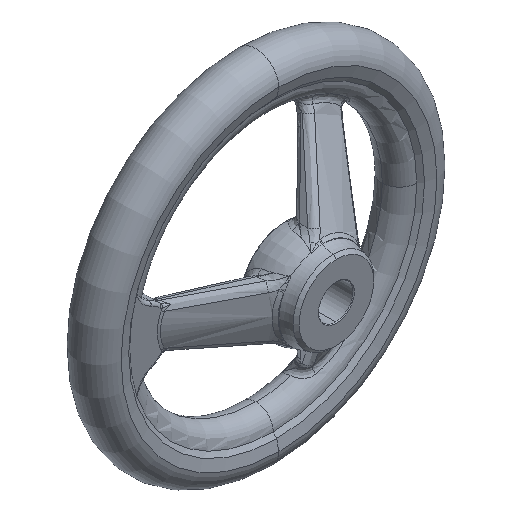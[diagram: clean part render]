
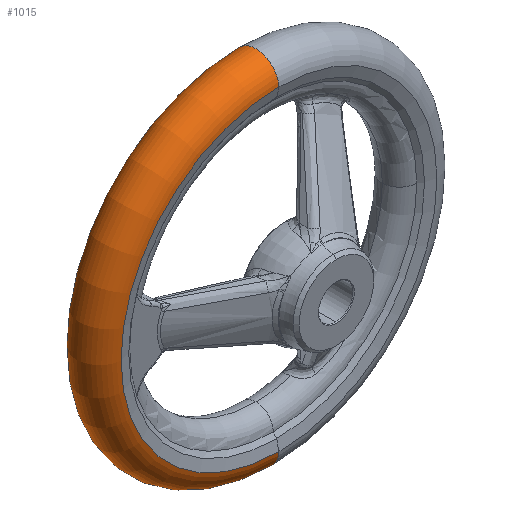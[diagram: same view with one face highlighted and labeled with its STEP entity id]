
A CAD part, isometric view. The second image highlights one B-rep face of the part: STEP entity #1015.
In plain terms, the highlighted toroidal (fillet/blend) face has major radius 54.483 mm and minor radius 8.017 mm.
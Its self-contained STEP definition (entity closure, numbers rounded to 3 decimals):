
#77 = DIRECTION ( 'NONE',  ( 0., -1., 0. ) ) ;
#383 = EDGE_CURVE ( 'NONE', #8399, #3106, #8800, .T. ) ;
#736 = CIRCLE ( 'NONE', #2130, 55. ) ;
#1015 = ADVANCED_FACE ( 'NONE', ( #4427 ), #7527, .T. ) ;
#1913 = CARTESIAN_POINT ( 'NONE',  ( 0., 28., 54.483 ) ) ;
#2122 = CIRCLE ( 'NONE', #3067, 55. ) ;
#2130 = AXIS2_PLACEMENT_3D ( 'NONE', #4916, #77, #5727 ) ;
#2595 = AXIS2_PLACEMENT_3D ( 'NONE', #1913, #7505, #2730 ) ;
#2730 = DIRECTION ( 'NONE',  ( 0., 0., -1. ) ) ;
#2789 = CARTESIAN_POINT ( 'NONE',  ( 0., 36., 0. ) ) ;
#2843 = EDGE_CURVE ( 'NONE', #8015, #3106, #736, .T. ) ;
#3067 = AXIS2_PLACEMENT_3D ( 'NONE', #2789, #8369, #3595 ) ;
#3106 = VERTEX_POINT ( 'NONE', #8330 ) ;
#3286 = AXIS2_PLACEMENT_3D ( 'NONE', #4521, #10095, #5329 ) ;
#3522 = CARTESIAN_POINT ( 'NONE',  ( 0., 28., 0. ) ) ;
#3595 = DIRECTION ( 'NONE',  ( 0., 0., -1. ) ) ;
#3693 = EDGE_CURVE ( 'NONE', #9418, #8015, #6784, .T. ) ;
#4061 = CARTESIAN_POINT ( 'NONE',  ( 0., 36., -55. ) ) ;
#4264 = CARTESIAN_POINT ( 'NONE',  ( 0., 20., 55. ) ) ;
#4427 = FACE_OUTER_BOUND ( 'NONE', #9886, .T. ) ;
#4521 = CARTESIAN_POINT ( 'NONE',  ( 0., 28., -54.483 ) ) ;
#4641 = EDGE_CURVE ( 'NONE', #9418, #8399, #2122, .T. ) ;
#4916 = CARTESIAN_POINT ( 'NONE',  ( 0., 20., 0. ) ) ;
#5082 = CARTESIAN_POINT ( 'NONE',  ( 0., 36., 55. ) ) ;
#5329 = DIRECTION ( 'NONE',  ( 0., 0., 1. ) ) ;
#5727 = DIRECTION ( 'NONE',  ( 0., 0., -1. ) ) ;
#5951 = DIRECTION ( 'NONE',  ( 0., 0., -1. ) ) ;
#6656 = AXIS2_PLACEMENT_3D ( 'NONE', #3522, #9088, #5951 ) ;
#6784 = CIRCLE ( 'NONE', #2595, 8.017 ) ;
#7027 = ORIENTED_EDGE ( 'NONE', *, *, #383, .T. ) ;
#7505 = DIRECTION ( 'NONE',  ( 1., 0., 0. ) ) ;
#7527 = TOROIDAL_SURFACE ( 'NONE', #6656, 54.483, 8.017 ) ;
#8015 = VERTEX_POINT ( 'NONE', #4264 ) ;
#8330 = CARTESIAN_POINT ( 'NONE',  ( 0., 20., -55. ) ) ;
#8369 = DIRECTION ( 'NONE',  ( 0., -1., 0. ) ) ;
#8399 = VERTEX_POINT ( 'NONE', #4061 ) ;
#8800 = CIRCLE ( 'NONE', #3286, 8.017 ) ;
#8830 = ORIENTED_EDGE ( 'NONE', *, *, #4641, .T. ) ;
#8978 = ORIENTED_EDGE ( 'NONE', *, *, #2843, .F. ) ;
#9088 = DIRECTION ( 'NONE',  ( 0., -1., 0. ) ) ;
#9132 = ORIENTED_EDGE ( 'NONE', *, *, #3693, .F. ) ;
#9418 = VERTEX_POINT ( 'NONE', #5082 ) ;
#9886 = EDGE_LOOP ( 'NONE', ( #9132, #8830, #7027, #8978 ) ) ;
#10095 = DIRECTION ( 'NONE',  ( -1., 0., 0. ) ) ;
